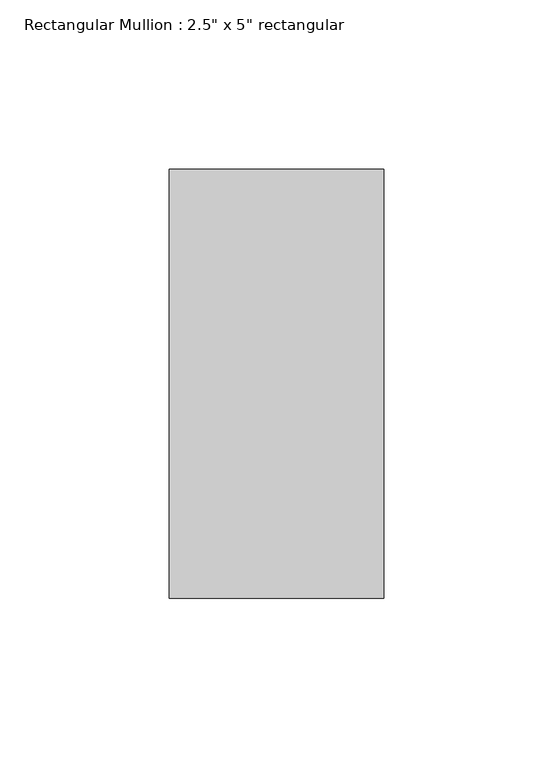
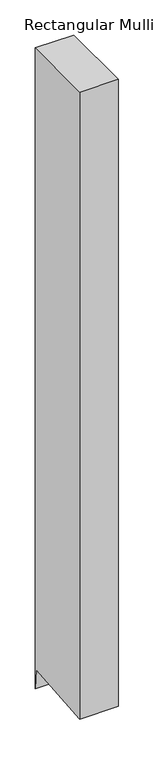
"""IFC4 building model written with IfcOpenShell, lengths in millimetres: member geometry."""

from ifc_helpers import new_model, si_unit, frame, origin, place, context, project, spatial, polyline, outline, extrude, source, transform, mapped, element, save


def member_6fd4d727(model_context):
    return source(origin(), model_context, "Body", "SweptSolid", [
        extrude(outline(polyline([(-63.5, 0.0), (63.5, 0.0), (63.5, -1112.9394571), (60.6612211, -1078.6804904), (-63.5, -1088.9687826), (-63.5, 0.0)])), frame((-63.5, 0.0, 0.0), z_axis=(1.0, 0.0, 0.0), x_axis=(0.0, 1.0, 0.0)), (0.0, 0.0, 1.0), 63.5),
    ])


if __name__ == "__main__":
    model = new_model("IFC4")
    model_context = context("Model", 3, world=origin())
    ifc_project = project(units=[si_unit("LENGTHUNIT", "METRE", prefix="MILLI")], contexts=[model_context])
    site = spatial("IfcSite", under=ifc_project)
    building = spatial("IfcBuilding", under=site)
    placement = place(None, origin())
    member_shape = member_6fd4d727(model_context)
    element("IfcMember", 1, ObjectType="Rectangular Mullion : 2.5\" x 5\" rectangular", at=placement, inside=building, context=model_context, shape_type="MappedRepresentation", body=[
        mapped(member_shape, transform((0.0, 0.0, 0.0), x_axis=(1.0, 0.0, 0.0), y_axis=(0.0, 1.0, 0.0), z_axis=(0.0, 0.0, 1.0))),
    ])
    save(model, "model.ifc")
